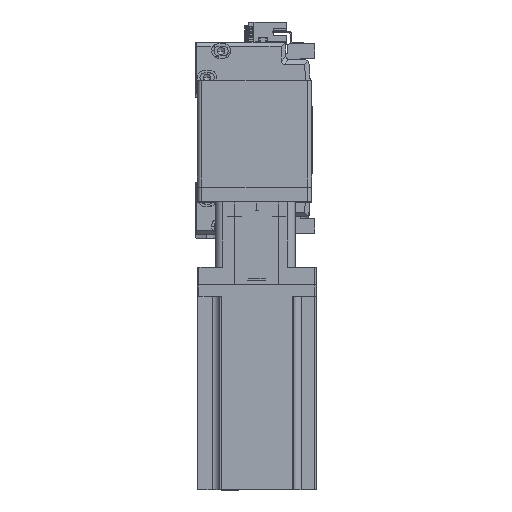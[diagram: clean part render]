
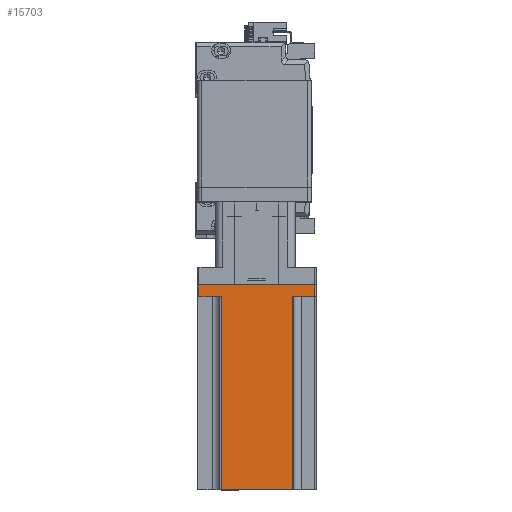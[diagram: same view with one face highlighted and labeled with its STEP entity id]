
A CAD part, top view. The second image highlights one B-rep face of the part: STEP entity #15703.
In plain terms, the highlighted planar face has unit normal (0, 0, 1) as drawn and (0, 1, 0) by its records, which use the part's own axes.
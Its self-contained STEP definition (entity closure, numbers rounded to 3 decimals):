
#2476 = EDGE_CURVE ( 'NONE', #27439, #51347, #27250, .T. ) ;
#3968 = DIRECTION ( 'NONE',  ( -1., 0., 0. ) ) ;
#5437 = CARTESIAN_POINT ( 'NONE',  ( 40., 40., 138.3 ) ) ;
#5597 = DIRECTION ( 'NONE',  ( -1., 0., 0. ) ) ;
#5897 = VECTOR ( 'NONE', #41015, 1000. ) ;
#6031 = VERTEX_POINT ( 'NONE', #8196 ) ;
#6495 = ORIENTED_EDGE ( 'NONE', *, *, #24218, .T. ) ;
#8196 = CARTESIAN_POINT ( 'NONE',  ( -39., 40., 0. ) ) ;
#8395 = CARTESIAN_POINT ( 'NONE',  ( -25., 40., 8. ) ) ;
#8538 = VERTEX_POINT ( 'NONE', #52084 ) ;
#8555 = VERTEX_POINT ( 'NONE', #45556 ) ;
#9591 = EDGE_CURVE ( 'NONE', #8555, #6031, #46703, .T. ) ;
#10160 = ORIENTED_EDGE ( 'NONE', *, *, #2476, .F. ) ;
#10398 = DIRECTION ( 'NONE',  ( 0., -1., 0. ) ) ;
#10642 = ORIENTED_EDGE ( 'NONE', *, *, #41642, .T. ) ;
#11132 = ORIENTED_EDGE ( 'NONE', *, *, #27999, .T. ) ;
#11610 = CARTESIAN_POINT ( 'NONE',  ( -24., 40., 138.3 ) ) ;
#11704 = CARTESIAN_POINT ( 'NONE',  ( 39., 40., 8. ) ) ;
#12196 = ORIENTED_EDGE ( 'NONE', *, *, #26986, .T. ) ;
#12936 = VECTOR ( 'NONE', #3968, 1000. ) ;
#13294 = EDGE_CURVE ( 'NONE', #23877, #51347, #37726, .T. ) ;
#15156 = CARTESIAN_POINT ( 'NONE',  ( 24., 40., 8. ) ) ;
#15703 = ADVANCED_FACE ( 'NONE', ( #44873 ), #18359, .F. ) ;
#16983 = CARTESIAN_POINT ( 'NONE',  ( 24., 40., 138.3 ) ) ;
#18100 = DIRECTION ( 'NONE',  ( 0., 0., -1. ) ) ;
#18359 = PLANE ( 'NONE',  #41228 ) ;
#19143 = LINE ( 'NONE', #38525, #31418 ) ;
#20004 = LINE ( 'NONE', #5437, #51216 ) ;
#20374 = CARTESIAN_POINT ( 'NONE',  ( 25., 40., 8. ) ) ;
#21222 = CARTESIAN_POINT ( 'NONE',  ( -24., 40., 138.3 ) ) ;
#22535 = VERTEX_POINT ( 'NONE', #11610 ) ;
#23219 = ORIENTED_EDGE ( 'NONE', *, *, #13294, .T. ) ;
#23877 = VERTEX_POINT ( 'NONE', #30809 ) ;
#24218 = EDGE_CURVE ( 'NONE', #8538, #22535, #36861, .T. ) ;
#24650 = EDGE_LOOP ( 'NONE', ( #12196, #6495, #33045, #23219, #10160, #10642, #40758, #11132 ) ) ;
#25797 = EDGE_CURVE ( 'NONE', #23877, #22535, #20004, .T. ) ;
#26293 = LINE ( 'NONE', #8395, #5897 ) ;
#26840 = VECTOR ( 'NONE', #45495, 1000. ) ;
#26986 = EDGE_CURVE ( 'NONE', #45919, #8538, #26293, .T. ) ;
#27250 = LINE ( 'NONE', #20374, #38119 ) ;
#27439 = VERTEX_POINT ( 'NONE', #11704 ) ;
#27999 = EDGE_CURVE ( 'NONE', #6031, #45919, #50232, .T. ) ;
#30809 = CARTESIAN_POINT ( 'NONE',  ( 24., 40., 138.3 ) ) ;
#31418 = VECTOR ( 'NONE', #18100, 1000. ) ;
#31494 = CARTESIAN_POINT ( 'NONE',  ( -39., 40., 8. ) ) ;
#33045 = ORIENTED_EDGE ( 'NONE', *, *, #25797, .F. ) ;
#34930 = CARTESIAN_POINT ( 'NONE',  ( 40., 40., 138.3 ) ) ;
#36609 = CARTESIAN_POINT ( 'NONE',  ( 40., 40., 0. ) ) ;
#36861 = LINE ( 'NONE', #21222, #38109 ) ;
#37726 = LINE ( 'NONE', #16983, #26840 ) ;
#38109 = VECTOR ( 'NONE', #49663, 1000. ) ;
#38119 = VECTOR ( 'NONE', #5597, 1000. ) ;
#38525 = CARTESIAN_POINT ( 'NONE',  ( 39., 40., 138.3 ) ) ;
#38963 = DIRECTION ( 'NONE',  ( 1., 0., 0. ) ) ;
#40758 = ORIENTED_EDGE ( 'NONE', *, *, #9591, .T. ) ;
#41015 = DIRECTION ( 'NONE',  ( 1., 0., 0. ) ) ;
#41228 = AXIS2_PLACEMENT_3D ( 'NONE', #34930, #10398, #38963 ) ;
#41642 = EDGE_CURVE ( 'NONE', #27439, #8555, #19143, .T. ) ;
#41931 = DIRECTION ( 'NONE',  ( -1., 0., 0. ) ) ;
#44873 = FACE_OUTER_BOUND ( 'NONE', #24650, .T. ) ;
#45495 = DIRECTION ( 'NONE',  ( 0., 0., -1. ) ) ;
#45556 = CARTESIAN_POINT ( 'NONE',  ( 39., 40., 0. ) ) ;
#45919 = VERTEX_POINT ( 'NONE', #31494 ) ;
#46703 = LINE ( 'NONE', #36609, #12936 ) ;
#47745 = VECTOR ( 'NONE', #48297, 1000. ) ;
#48297 = DIRECTION ( 'NONE',  ( 0., 0., 1. ) ) ;
#49663 = DIRECTION ( 'NONE',  ( 0., 0., 1. ) ) ;
#50232 = LINE ( 'NONE', #52162, #47745 ) ;
#51216 = VECTOR ( 'NONE', #41931, 1000. ) ;
#51347 = VERTEX_POINT ( 'NONE', #15156 ) ;
#52084 = CARTESIAN_POINT ( 'NONE',  ( -24., 40., 8. ) ) ;
#52162 = CARTESIAN_POINT ( 'NONE',  ( -39., 40., 138.3 ) ) ;
